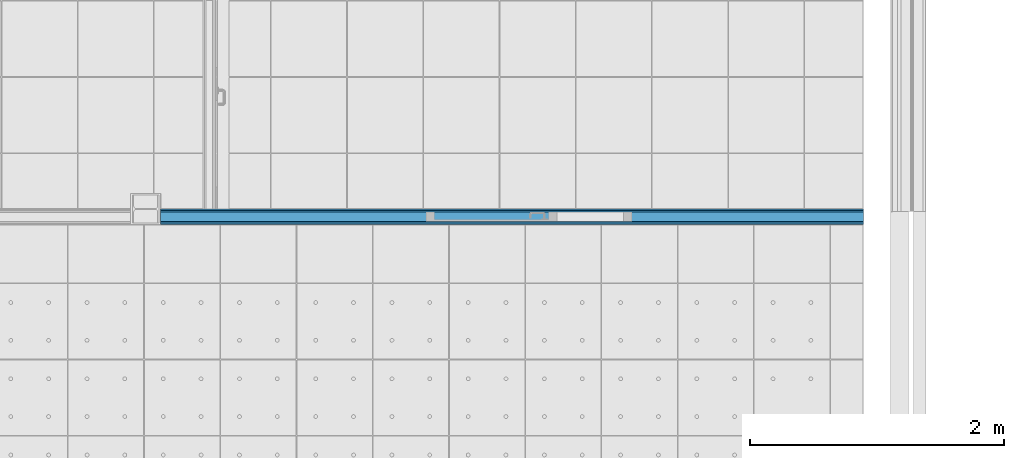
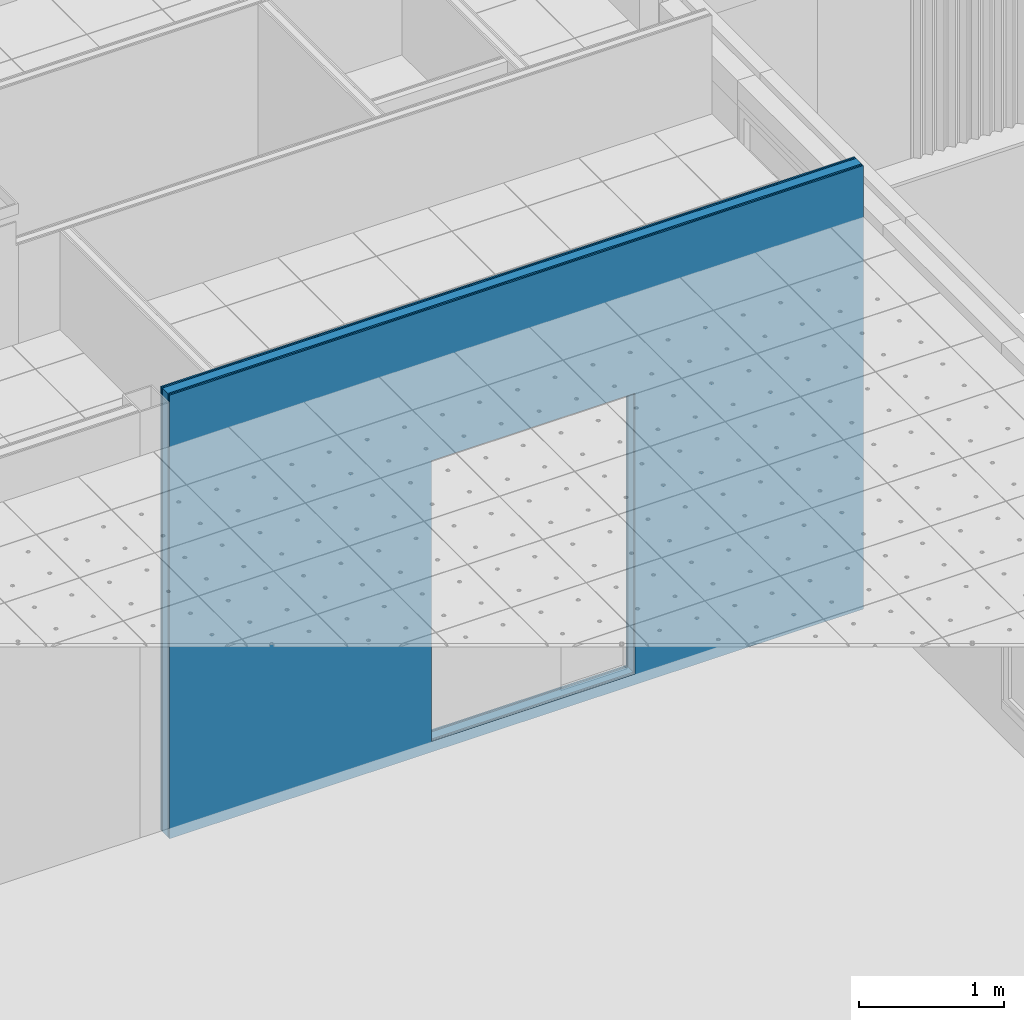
# One storey, part 80 of 338: 5 building element parts, 1 opening, 1 element without a shape of its own.
"""IFC2X3 building model written with IfcOpenShell, lengths in millimetres."""

from ifc_helpers import new_model, entity, si_unit, converted_unit, derived_unit, money_unit, direction, frame, origin_with_axes, place, context, subcontext, project, spatial, faceted_brep, material, type_object, element, aggregate, save


model = new_model("IFC2X3")

# Units and contexts
model_context = context("Model", 3, precision=0.01, world=origin_with_axes(), true_north=direction((0.0, 1.0)))
plan_context = context("Plan", 3, precision=0.01, world=origin_with_axes(), true_north=direction((0.0, 1.0)))
body_context = subcontext(model_context, "Body", "Model", "MODEL_VIEW")
ifc_project = project(units=[si_unit("LENGTHUNIT", "METRE", prefix="MILLI"), si_unit("AREAUNIT", "SQUARE_METRE"), si_unit("VOLUMEUNIT", "CUBIC_METRE"), converted_unit("PLANEANGLEUNIT", "DEGREE", entity("IfcPlaneAngleMeasure", 0.0174532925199), si_unit("PLANEANGLEUNIT", "RADIAN"), dimensions=[0, 0, 0, 0, 0, 0, 0]), money_unit("EUR"), converted_unit("TIMEUNIT", "Year", entity("IfcTimeMeasure", 31556926.0), si_unit("TIMEUNIT", "SECOND"), dimensions=[0, 0, 1, 0, 0, 0, 0]), si_unit("MASSUNIT", "GRAM", prefix="KILO"), si_unit("THERMODYNAMICTEMPERATUREUNIT", "DEGREE_CELSIUS"), si_unit("LUMINOUSINTENSITYUNIT", "LUMEN"), si_unit("ENERGYUNIT", "JOULE", prefix="MEGA"), derived_unit("THERMALCONDUCTANCEUNIT", [(si_unit("POWERUNIT", "WATT"), 1), (si_unit("LENGTHUNIT", "METRE"), -1), (si_unit("THERMODYNAMICTEMPERATUREUNIT", "KELVIN"), -1)]), derived_unit("SPECIFICHEATCAPACITYUNIT", [(si_unit("ENERGYUNIT", "JOULE"), 1), (si_unit("MASSUNIT", "GRAM", prefix="KILO"), -1), (si_unit("THERMODYNAMICTEMPERATUREUNIT", "KELVIN"), -1)]), derived_unit("MASSDENSITYUNIT", [(si_unit("MASSUNIT", "GRAM", prefix="KILO"), 1), (si_unit("VOLUMEUNIT", "CUBIC_METRE"), -1)])], contexts=[model_context, plan_context])

# Site, building, storey
site_placement = place(None, origin_with_axes())
site = spatial("IfcSite", under=ifc_project, at=site_placement, Name="Fortuinstraat Woensdrecht", CompositionType="ELEMENT")
building_placement = place(site_placement, origin_with_axes())
building = spatial("IfcBuilding", under=site, at=building_placement, Name="IKC Fortuna", CompositionType="ELEMENT")
storey_placement = place(building_placement, origin_with_axes())
storey = spatial("IfcBuildingStorey", under=building, at=storey_placement, Name="00 begane grond", CompositionType="ELEMENT", Elevation=0.0)

# Wall, opening, building element parts
wall_type = type_object("IfcWallType", Name="MS125 2.75.2A 125", PredefinedType="NOTDEFINED")
wall_placement = place(storey_placement, frame((29086.9349765, 17709.7966283, -90.0), z_axis=(0.0, 0.0, 1.0), x_axis=(1.0, 2.80924600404e-09, 0.0)))
wall = element("IfcWall", 1, at=wall_placement, inside=storey, type_object=wall_type, Name="22_Wand_Binnenwand")
opening_placement = place(wall_placement, frame((2899.99998, 0.0, 90.0), z_axis=(0.0, 0.0, 1.0), x_axis=(1.0, 0.0, 0.0)))
element("IfcOpeningElement", 2, at=opening_placement, cuts=wall, Name="32_Deur_h.13", context=body_context, shape_type="Brep", body=[
    faceted_brep([(-812.499999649, 125.000002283, 2367.0), (-812.499999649, 125.000002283, 0.0), (-812.500000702, -249.999997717, 0.0), (-812.500000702, -249.999997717, 2367.0), (812.500000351, 124.999997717, 2367.0), (812.500000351, 124.999997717, 0.0), (812.499999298, -250.000002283, 0.0), (812.499999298, -250.000002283, 2367.0)], [[[0, 1, 2, 3]], [[0, 4, 5, 1]], [[1, 5, 6, 2]], [[3, 2, 6, 7]], [[4, 0, 3, 7]], [[5, 4, 7, 6]]]),
])
ifc_material_1 = material(Name="Gipsplaat")
building_element_part_1_placement = place(wall_placement, origin_with_axes())
building_element_part_1 = element("IfcBuildingElementPart", 3, at=building_element_part_1_placement, material=ifc_material_1, Name="Gipsplaat", context=body_context, shape_type="Brep", body=[
    faceted_brep([(5532.49203387, 112.499984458, 3740.0), (3.16038750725e-07, 112.5, 3740.0), (3.16038750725e-07, 112.5, 0.0), (5532.49203387, 112.499984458, 0.0), (2087.49998032, 112.499994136, 90.0), (2087.49998032, 112.499994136, 2457.0), (3712.49998032, 112.499989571, 2457.0), (3712.49998032, 112.499989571, 90.0), (5532.49203391, 124.999984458, 3740.0), (3.51153772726e-07, 125.0, 3740.0), (3.51153772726e-07, 125.0, 0.0), (5532.49203391, 124.999984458, 0.0), (2087.49998035, 124.999994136, 90.0), (2087.49998035, 124.999994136, 2457.0), (3712.49998035, 124.999989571, 2457.0), (3712.49998035, 124.999989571, 90.0)], [[[0, 1, 2, 3], [4, 5, 6, 7]], [[8, 9, 1, 0]], [[9, 10, 2, 1]], [[3, 2, 10, 11]], [[3, 11, 8, 0]], [[12, 13, 5, 4]], [[13, 14, 6, 5]], [[14, 15, 7, 6]], [[15, 12, 4, 7]], [[11, 10, 9, 8], [12, 15, 14, 13]]]),
])
building_element_part_2_placement = place(wall_placement, origin_with_axes())
building_element_part_2 = element("IfcBuildingElementPart", 4, at=building_element_part_2_placement, material=ifc_material_1, Name="Gipsplaat", context=body_context, shape_type="Brep", body=[
    faceted_brep([(5532.49203384, 99.9999844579, 3740.0), (2.80923728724e-07, 100.0, 3740.0), (2.80923728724e-07, 100.0, 0.0), (5532.49203384, 99.9999844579, 0.0), (2087.49998028, 99.9999941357, 90.0), (2087.49998028, 99.9999941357, 2457.0), (3712.49998028, 99.9999895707, 2457.0), (3712.49998028, 99.9999895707, 90.0), (5532.49203387, 112.499984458, 3740.0), (3.16038750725e-07, 112.5, 3740.0), (3.16038750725e-07, 112.5, 0.0), (5532.49203387, 112.499984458, 0.0), (2087.49998032, 112.499994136, 90.0), (2087.49998032, 112.499994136, 2457.0), (3712.49998032, 112.499989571, 2457.0), (3712.49998032, 112.499989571, 90.0)], [[[0, 1, 2, 3], [4, 5, 6, 7]], [[8, 9, 1, 0]], [[9, 10, 2, 1]], [[3, 2, 10, 11]], [[3, 11, 8, 0]], [[12, 13, 5, 4]], [[13, 14, 6, 5]], [[14, 15, 7, 6]], [[15, 12, 4, 7]], [[11, 10, 9, 8], [12, 15, 14, 13]]]),
])
ifc_material_2 = material(Name="Isolatie - Steenwol LSW")
building_element_part_3_placement = place(wall_placement, origin_with_axes())
building_element_part_3 = element("IfcBuildingElementPart", 5, at=building_element_part_3_placement, material=ifc_material_2, Name="Isolatie - Steenwol LSW", context=body_context, shape_type="Brep", body=[
    faceted_brep([(5532.49203363, 24.9999844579, 3740.0), (7.02300440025e-08, 25.0, 3740.0), (7.02300440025e-08, 25.0, 0.0), (5532.49203363, 24.9999844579, 0.0), (2087.49998007, 24.9999941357, 90.0), (2087.49998007, 24.9999941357, 2457.0), (3712.49998007, 24.9999895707, 2457.0), (3712.49998007, 24.9999895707, 90.0), (5532.49203384, 99.9999844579, 3740.0), (2.80923728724e-07, 100.0, 3740.0), (2.80923728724e-07, 100.0, 0.0), (5532.49203384, 99.9999844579, 0.0), (2087.49998028, 99.9999941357, 90.0), (2087.49998028, 99.9999941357, 2457.0), (3712.49998028, 99.9999895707, 2457.0), (3712.49998028, 99.9999895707, 90.0)], [[[0, 1, 2, 3], [4, 5, 6, 7]], [[8, 9, 1, 0]], [[9, 10, 2, 1]], [[3, 2, 10, 11]], [[3, 11, 8, 0]], [[12, 13, 5, 4]], [[13, 14, 6, 5]], [[14, 15, 7, 6]], [[15, 12, 4, 7]], [[11, 10, 9, 8], [12, 15, 14, 13]]]),
])
building_element_part_4_placement = place(wall_placement, origin_with_axes())
building_element_part_4 = element("IfcBuildingElementPart", 6, at=building_element_part_4_placement, material=ifc_material_1, Name="Gipsplaat", context=body_context, shape_type="Brep", body=[
    faceted_brep([(5532.49203359, 12.4999844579, 3740.0), (3.51150220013e-08, 12.5, 3740.0), (3.51150220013e-08, 12.5, 0.0), (5532.49203359, 12.4999844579, 0.0), (2087.49998004, 12.4999941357, 90.0), (2087.49998004, 12.4999941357, 2457.0), (3712.49998004, 12.4999895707, 2457.0), (3712.49998004, 12.4999895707, 90.0), (5532.49203363, 24.9999844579, 3740.0), (7.02300440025e-08, 25.0, 3740.0), (7.02300440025e-08, 25.0, 0.0), (5532.49203363, 24.9999844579, 0.0), (2087.49998007, 24.9999941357, 90.0), (2087.49998007, 24.9999941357, 2457.0), (3712.49998007, 24.9999895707, 2457.0), (3712.49998007, 24.9999895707, 90.0)], [[[0, 1, 2, 3], [4, 5, 6, 7]], [[8, 9, 1, 0]], [[9, 10, 2, 1]], [[3, 2, 10, 11]], [[3, 11, 8, 0]], [[12, 13, 5, 4]], [[13, 14, 6, 5]], [[14, 15, 7, 6]], [[15, 12, 4, 7]], [[11, 10, 9, 8], [12, 15, 14, 13]]]),
])
building_element_part_5_placement = place(wall_placement, origin_with_axes())
building_element_part_5 = element("IfcBuildingElementPart", 7, at=building_element_part_5_placement, material=ifc_material_1, Name="Gipsplaat", context=body_context, shape_type="Brep", body=[
    faceted_brep([(5532.49203356, -1.55421311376e-05, 3740.0), (0.0, 0.0, 3740.0), (0.0, 0.0, 0.0), (5532.49203356, -1.55421311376e-05, 0.0), (2087.49998, -5.86430104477e-06, 90.0), (2087.49998, -5.86430104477e-06, 2457.0), (3712.49998, -1.04293285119e-05, 2457.0), (3712.49998, -1.04293285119e-05, 90.0), (5532.49203359, 12.4999844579, 3740.0), (3.51150220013e-08, 12.5, 3740.0), (3.51150220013e-08, 12.5, 0.0), (5532.49203359, 12.4999844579, 0.0), (2087.49998004, 12.4999941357, 90.0), (2087.49998004, 12.4999941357, 2457.0), (3712.49998004, 12.4999895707, 2457.0), (3712.49998004, 12.4999895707, 90.0)], [[[0, 1, 2, 3], [4, 5, 6, 7]], [[8, 9, 1, 0]], [[9, 10, 2, 1]], [[3, 2, 10, 11]], [[3, 11, 8, 0]], [[12, 13, 5, 4]], [[13, 14, 6, 5]], [[14, 15, 7, 6]], [[15, 12, 4, 7]], [[11, 10, 9, 8], [12, 15, 14, 13]]]),
])
aggregate(wall, [building_element_part_1, building_element_part_2, building_element_part_3, building_element_part_4, building_element_part_5])

save(model, "model.ifc")
